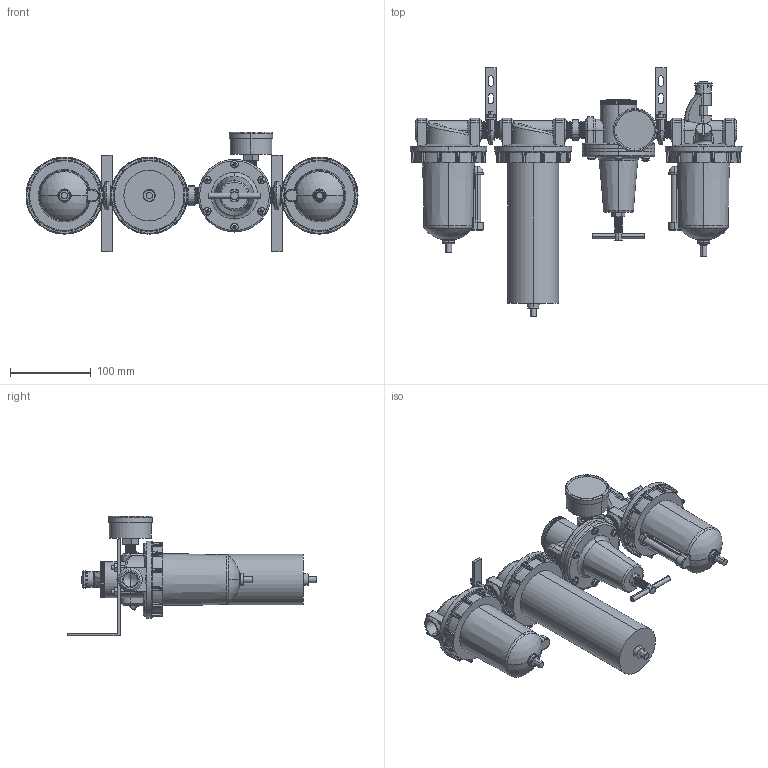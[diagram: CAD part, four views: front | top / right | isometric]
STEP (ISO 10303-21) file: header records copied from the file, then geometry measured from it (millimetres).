
FILE_DESCRIPTION (( 'STEP AP203' ), '1' );
FILE_NAME ('A728#W#-04YB#.STEP', '2016-01-14T17:46:49', ( '' ), ( '' ), 'SwSTEP 2.0', 'SolidWorks 2014', '' );
FILE_SCHEMA (( 'CONFIG_CONTROL_DESIGN' ));
Length unit declared in the file: millimetre
Products named in the file (28): R119-02-6; 50-P-AD=1-4PT-2; R119-04-無固定架; L606W-04; R119-04-4; R119-04-1; L606-W-04; H604D-04YB#; L606-W-06-3; L606-W-04-1; L606-W-06-4; L606-W-06-5; L606-W-04-分割; 50-P-AD=1-4PT.SLDPRT; L型-04; 50-P-AD=1-4PT-1; R119-04-2; R119-02-5; H604D-02-1; L606-W-06-2; F602W-04#YB#; R119-04-3; A728#W#-04YB#; ISO 7045 - M5 x 12; R119-02-7; L606-W-04-下; 1-2-圓; F602-04-上
Assembly tree (41 placements, depth 4):
  A728#W#-04YB#
    F602W-04#YB#
      F602-04-上
      L606-W-06-2
      L606-W-06-5
      L606-W-04-下
    H604D-04YB#
      L606-W-06-5
      H604D-02-1
      F602-04-上
    1-2-圓  x3
    L606W-04
      L606-W-06-2
      L606-W-06-5
      L606-W-06-4
      L606-W-06-3  x2
      L606-W-04
      L606-W-04-1
      L606-W-04-分割
    L型-04  x2
    R119-04-無固定架
      R119-04-1
      R119-04-2
      R119-04-3
      R119-04-4
      R119-02-5
      R119-02-7
      R119-02-6
      ISO 7045 - M5 x 12  x7
      50-P-AD=1-4PT.SLDPRT
        50-P-AD=1-4PT-1
        50-P-AD=1-4PT-2
Bounding box: 412.25 x 308.7 x 149 mm (x, y, z)
Volume: 2195422.5 mm3; surface area: 313172.4 mm2
Topology: 42 solids, 42 shells, 2134 faces, 5250 edges, 3134 vertices
Faces by surface type: plane 696, cylinder 453, cone 400, bspline 332, torus 143, sphere 110
Entity records: 62249 total; most frequent: CARTESIAN_POINT 27475, ORIENTED_EDGE 7012, DIRECTION 6143, EDGE_CURVE 3506, AXIS2_PLACEMENT_3D 2534, VERTEX_POINT 2120, EDGE_LOOP 1518, FACE_OUTER_BOUND 1463
